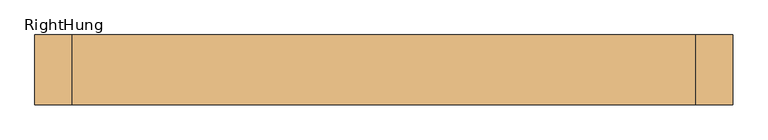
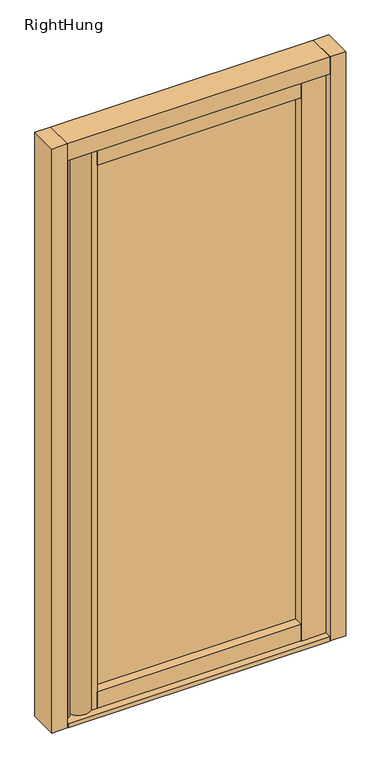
"""IFC4 building model written with IfcOpenShell, lengths in millimetres: door geometry, SMARTS_SmartWall : RightHung."""

from ifc_helpers import new_model, si_unit, point, frame, frame_2d, origin, place, context, project, spatial, polyline, circle_curve, trimmed, segment, composite_curve, outline, extrude, source, transform, mapped, element, save


def righthung_07b643d6(model_context):
    return source(origin(), model_context, "Body", "SweptSolid", [
        extrude(outline(polyline([(440.9108177, 63.4548082), (443.0569033, 43.0361673), (443.0569033, 16.8734509), (440.9108177, -3.5451901), (357.0596871, -3.5451901), (357.0596871, 63.4548082), (440.9108177, 63.4548082)])), frame((0.0, 0.0, 831.0), z_axis=(0.0, 0.0, 1.0), x_axis=(1.0, 0.0, 0.0)), (0.0, 0.0, 1.0), 2013.0),
        extrude(outline(polyline([(-447.0585468, 54.49833), (-429.2495449, 54.49833), (-421.965126, 51.4062776), (-426.0287297, 41.8330271), (-426.0287297, 18.1636329), (-421.965126, 8.5903824), (-429.2495449, 5.49833), (-447.0585468, 5.49833), (-447.0585468, 54.49833)])), frame((0.0, 0.0, 825.0), z_axis=(0.0, 0.0, 1.0), x_axis=(1.0, 0.0, 0.0)), (0.0, 0.0, 1.0), 2025.0),
        extrude(outline(polyline([(357.1, 56.2428114), (357.1, 28.2428114), (-336.1, 28.2428114), (-336.1, 56.2428114), (357.1, 56.2428114)])), frame((0.0, 0.0, 891.0), z_axis=(0.0, 0.0, 1.0), x_axis=(1.0, 0.0, 0.0)), (0.0, 0.0, 1.0), 1893.0),
        extrude(outline(composite_curve([segment(trimmed(circle_curve(frame_2d((-382.0601718, 30.0355987)), 41.5), [point((-356.0033811, -2.264458))], [point((-356.2479151, 62.5314047))], False, "CARTESIAN"), True, "CONTINUOUS"), segment(polyline([(-356.2479151, 62.5314047), (-336.0613093, 62.4668875), (-336.0613093, -2.264458), (-356.0033811, -2.264458)]), True, "CONTINUOUS")], self_intersect=False)), frame((0.0, 0.0, 831.0), z_axis=(0.0, 0.0, 1.0), x_axis=(1.0, 0.0, 0.0)), (0.0, 0.0, 1.0), 2013.0),
        extrude(outline(polyline([(-500.0, 79.9975), (-447.0585468, 79.9975), (-447.0585468, -20.0), (-500.0, -20.0), (-500.0, 79.9975)])), frame((0.0, 0.0, 810.0), z_axis=(0.0, 0.0, 1.0), x_axis=(1.0, 0.0, 0.0)), (0.0, 0.0, 1.0), 2100.0),
        extrude(outline(polyline([(500.0, 79.9975), (500.0, -20.0), (447.0585468, -20.0), (447.0585468, 79.9975), (500.0, 79.9975)])), frame((0.0, 0.0, 810.0), z_axis=(0.0, 0.0, 1.0), x_axis=(1.0, 0.0, 0.0)), (0.0, 0.0, 1.0), 2100.0),
        extrude(outline(polyline([(-445.0, -20.0), (-445.0, 79.9975), (445.0, 79.9975), (445.0, -20.0), (-445.0, -20.0)])), frame((0.0, 0.0, 810.0), z_axis=(0.0, 0.0, 1.0), x_axis=(1.0, 0.0, 0.0)), (0.0, 0.0, 1.0), 15.0),
        extrude(outline(polyline([(-336.1, -2.50125), (-336.1, 62.49875), (357.1, 62.49875), (357.1, -2.50125), (-336.1, -2.50125)])), frame((0.0, 0.0, 831.0), z_axis=(0.0, 0.0, 1.0), x_axis=(1.0, 0.0, 0.0)), (0.0, 0.0, 1.0), 60.0),
        extrude(outline(polyline([(-336.1, -2.50125), (-336.1, 62.49875), (357.1, 62.49875), (357.1, -2.50125), (-336.1, -2.50125)])), frame((0.0, 0.0, 2784.0), z_axis=(0.0, 0.0, 1.0), x_axis=(1.0, 0.0, 0.0)), (0.0, 0.0, 1.0), 60.0),
        extrude(outline(polyline([(-447.0585468, -20.0), (-447.0585468, 79.9975), (447.0, 79.9975), (447.0, -20.0), (-447.0585468, -20.0)])), frame((0.0, 0.0, 2850.0), z_axis=(0.0, 0.0, 1.0), x_axis=(1.0, 0.0, 0.0)), (0.0, 0.0, 1.0), 60.0),
    ])


if __name__ == "__main__":
    model = new_model("IFC4")
    model_context = context("Model", 3, world=origin())
    ifc_project = project(units=[si_unit("LENGTHUNIT", "METRE", prefix="MILLI")], contexts=[model_context])
    site = spatial("IfcSite", under=ifc_project)
    building = spatial("IfcBuilding", under=site)
    placement = place(None, origin())
    righthung_shape = righthung_07b643d6(model_context)
    element("IfcDoor", 1, ObjectType="SMARTS_SmartWall : RightHung", at=placement, inside=building, context=model_context, shape_type="MappedRepresentation", body=[
        mapped(righthung_shape, transform((0.0, 0.0, 0.0), x_axis=(1.0, 0.0, 0.0), y_axis=(0.0, 1.0, 0.0), z_axis=(0.0, 0.0, 1.0))),
    ])
    save(model, "model.ifc")
